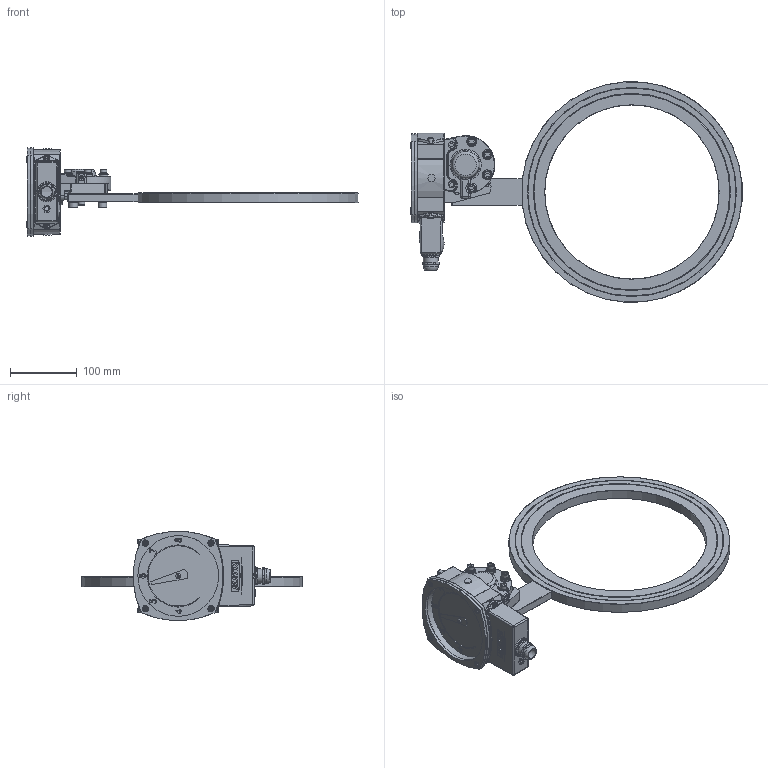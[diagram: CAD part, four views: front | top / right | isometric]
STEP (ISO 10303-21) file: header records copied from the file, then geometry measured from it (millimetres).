
FILE_DESCRIPTION(/* description */ ('Alibre Inc.'),/* implementation_level */ '2;1');
FILE_NAME(/* name */ 'export0',/* time_stamp */ '2012-10-19T13:43:21+02:00',/* author */ (''),/* organization */ (''),/* preprocessor_version */ 'ST-DEVELOPER v14',/* originating_system */ 'Alibre',/* authorisation */ '');
FILE_SCHEMA (('CONFIG_CONTROL_DESIGN'));
Length unit declared in the file: centimetre
Products named in the file (19): ID_1; ID_2; ID_3; ID_4; ID_5; ID_6; ID_7; ID_8; ID_9; ID_10; ID_11; ID_12; ID_13; ID_14
Bounding box: 495.75 x 329.24 x 132.89 mm (x, y, z)
Volume: 956717.4 mm3; surface area: 316995.5 mm2
Topology: 31 solids, 31 shells, 1723 faces, 4150 edges, 2558 vertices
Faces by surface type: plane 766, bspline 365, cylinder 322, torus 158, cone 86, sphere 26
Full cylindrical faces by diameter (mm): 3.9 x2, 5 x18, 5.2 x2, 5.5 x5, 5.541 x2, 6 x28, 6.35 x2, 6.5 x7, 8 x7, 8.5 x2, 9.6 x6, 10 x11, 10.5 x1, 12 x3, 13 x2, 14 x3, 16 x1, 19.5 x1, 22 x2, 22.5 x4, 25 x1, 29 x1, 31 x1, 120.5 x3, 123.4 x1, 129 x1, 260 x1, 293 x2, 294 x2, 311 x2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
Entity records: 60556 total; most frequent: CARTESIAN_POINT 28551, ORIENTED_EDGE 6474, DIRECTION 4845, EDGE_CURVE 3237, VERTEX_POINT 2118, AXIS2_PLACEMENT_3D 2016, EDGE_LOOP 1787, FACE_BOUND 1787
